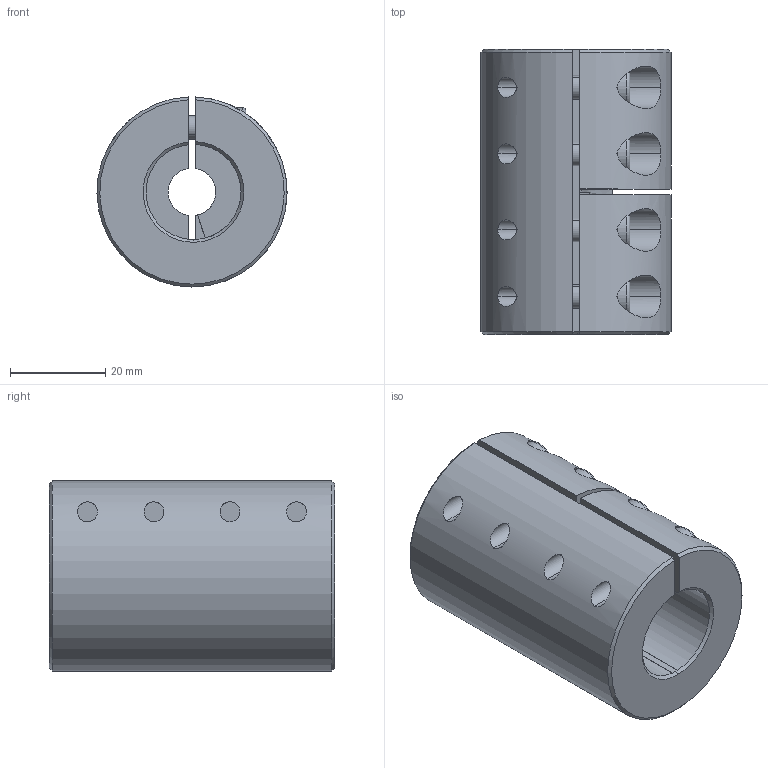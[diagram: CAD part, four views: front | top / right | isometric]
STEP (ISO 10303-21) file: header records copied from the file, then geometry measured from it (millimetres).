
FILE_DESCRIPTION (( 'STEP AP214' ), '1' );
FILE_NAME ('LL-B-D40L60-10-20½¨Ä£.STEP', '2022-07-22T00:55:02', ( '' ), ( '' ), 'SwSTEP 2.0', 'SolidWorks 2022', '' );
FILE_SCHEMA (( 'AUTOMOTIVE_DESIGN' ));
Length unit declared in the file: millimetre
Products named in the file (1): LL-B-D40L60-10-20膘耀
Bounding box: 40 x 60 x 39.99 mm (x, y, z)
Volume: 60232.1 mm3; surface area: 17566.3 mm2
Topology: 1 solids, 1 shells, 182 faces, 463 edges, 291 vertices
Faces by surface type: plane 88, cylinder 71, cone 15, torus 8
Entity records: 6017 total; most frequent: CARTESIAN_POINT 1531, DIRECTION 969, ORIENTED_EDGE 910, EDGE_CURVE 455, AXIS2_PLACEMENT_3D 377, VERTEX_POINT 291, LINE 215, VECTOR 215
